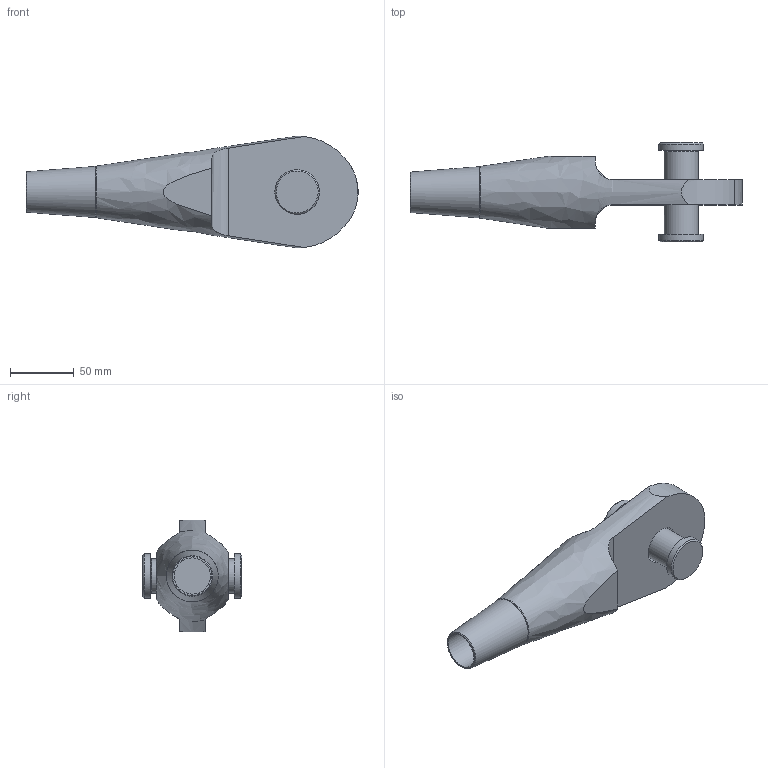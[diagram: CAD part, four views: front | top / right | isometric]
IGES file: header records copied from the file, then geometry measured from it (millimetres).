
Global section: file name: 520-027-OES; native system: Autodesk Inventor 2016; preprocessor: unknown; author: Administrator; date: 20200626.101207; units: centimetre
Bounding box: 261.43 x 78.51 x 88.03 mm (x, y, z)
Volume: 449849.8 mm3; surface area: 61062.7 mm2
Topology: 2 solids, 3 shells, 48 faces, 118 edges, 80 vertices
Faces by surface type: bspline 48
